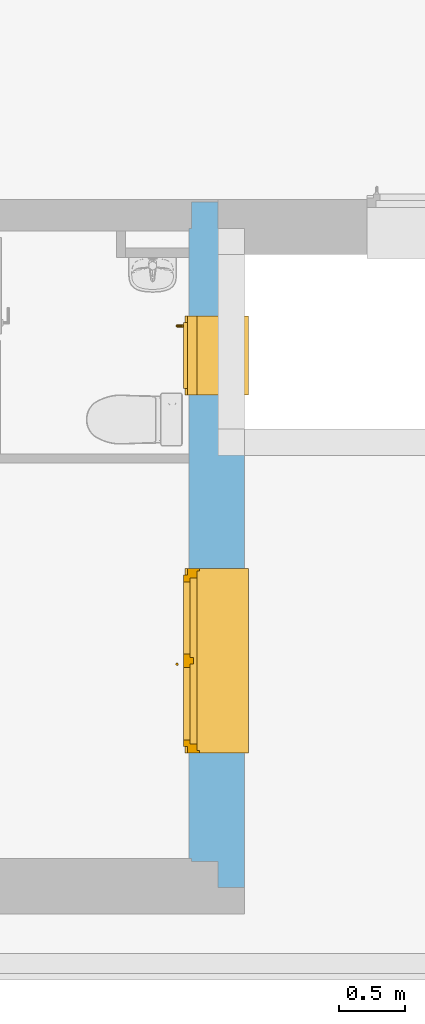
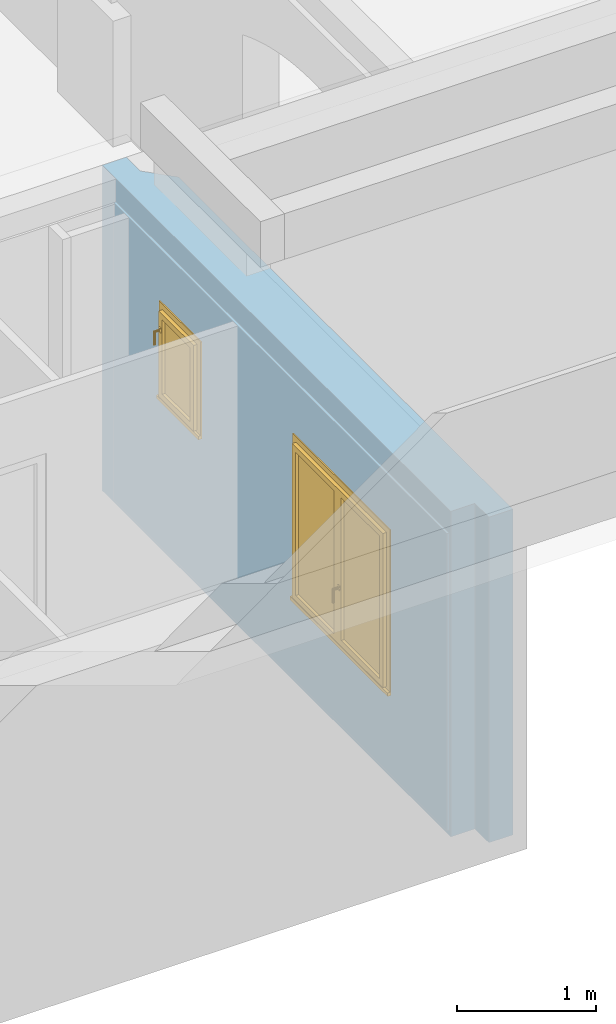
# One storey, part 7 of 16: 2 windows, 2 openings, plus 1 element that does not belong to this part.
"""IFC4 building model written with IfcOpenShell, lengths in metres."""

from ifc_helpers import new_model, entity, si_unit, converted_unit, frame, origin, origin_with_axes, place, context, subcontext, project, spatial, polyline, outline, extrude, clip, bounded_halfspace, closed_shell, open_shell, surface_model, source, transform, mapped, material, layer, layer_set, layer_usage, type_object, element, fill, save


model = new_model("IFC4")

# Units and contexts
model_context = context("Model", 3, precision=1e-05, world=origin())
body_context = subcontext(model_context, "Body", "Model", "MODEL_VIEW")
ifc_project = project(units=[si_unit("LENGTHUNIT", "METRE"), si_unit("AREAUNIT", "SQUARE_METRE"), si_unit("VOLUMEUNIT", "CUBIC_METRE"), si_unit("MASSUNIT", "GRAM", prefix="KILO"), converted_unit("PLANEANGLEUNIT", "DEGREE", entity("IfcPlaneAngleMeasure", 0.0174532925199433), si_unit("PLANEANGLEUNIT", "RADIAN"), dimensions=[0, 0, 0, 0, 0, 0, 0])], contexts=[model_context])

# Building, storey
building_placement = place(None, origin())
building = spatial("IfcBuilding", under=ifc_project, at=building_placement, Name="Projet de Construction", CompositionType="ELEMENT")
storey_placement = place(building_placement, frame((0.0, 0.0, -0.05)))
storey = spatial("IfcBuildingStorey", under=building, at=storey_placement, Name="RDC", CompositionType="ELEMENT", Elevation=-0.05)

# Wall, openings, windows
ifc_material_1 = material()
ifc_layer_1 = layer(ifc_material_1, 0.200000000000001)
ifc_material_2 = material()
ifc_layer_2 = layer(ifc_material_2, 0.2)
ifc_material_3 = material()
ifc_layer_3 = layer(ifc_material_3, 0.02)
ifc_layer_set = layer_set([ifc_layer_1, ifc_layer_2, ifc_layer_3])
ifc_layer_usage = layer_usage(ifc_layer_set, "AXIS2", "POSITIVE", 0.0)
wall_placement = place(storey_placement, frame((-3.9459375, -3.50020833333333, 0.0), z_axis=(0.0, 0.0, 1.0), x_axis=(3.7895612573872e-16, 1.0, 0.0)))
wall = element("IfcWall", 1, at=wall_placement, inside=storey, material=ifc_layer_usage, context=body_context, shape_type="Clipping", body=[
    clip(clip(extrude(outline(polyline([(1.59161572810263e-16, -0.420000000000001), (4.8, -0.420000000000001), (5.0, -0.219999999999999), (5.2, -0.219999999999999), (5.2, -0.0199999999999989), (5.0, -0.019999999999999), (5.0, 9.85285926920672e-16), (0.22, 8.33703476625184e-17), (0.22, -0.0199999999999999), (0.2, -0.0199999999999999), (0.2, -0.22), (8.33703476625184e-17, -0.22), (1.59161572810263e-16, -0.420000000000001)])), frame((-1.59161572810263e-16, 0.420000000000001, 0.0), z_axis=(0.0, 0.0, 1.0), x_axis=(1.0, 0.0, 0.0)), (0.0, 0.0, 1.0), 2.85), bounded_halfspace(frame((2.61, 0.410000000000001, 0.05), z_axis=(0.0, 0.0, 1.0), x_axis=(3.7895612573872e-16, -1.0, 0.0)), True, origin_with_axes(), polyline([(0.219999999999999, 0.420000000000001), (0.219999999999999, 0.400000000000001), (5.0, 0.400000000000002), (5.0, 0.420000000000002), (0.219999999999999, 0.420000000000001)]))), bounded_halfspace(frame((2.61, 0.410000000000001, 2.65), z_axis=(0.0, 0.0, -1.0), x_axis=(1.0, 1.88685267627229e-16, 0.0)), True, origin_with_axes(), polyline([(0.219999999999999, 0.400000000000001), (5.0, 0.400000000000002), (5.0, 0.420000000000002), (0.219999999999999, 0.420000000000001), (0.219999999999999, 0.400000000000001)]))),
])
opening_1_placement = place(wall_placement, frame((2.42, 0.200000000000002, 0.75), z_axis=(0.0, -1.0, 0.0), x_axis=(0.0, 0.0, 1.0)))
opening_1 = element("IfcOpeningStandardCase", 2, at=opening_1_placement, cuts=wall, Name="Baie de fenêtre", PredefinedType="OPENING", context=body_context, shape_type="SweptSolid", body=[
    extrude(outline(polyline([(0.0, 1.4), (1.45, 1.4), (1.45, 0.0), (0.0, 0.0), (0.0, 1.4)])), origin_with_axes(), (0.0, 0.0, 1.0), 0.200000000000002),
    extrude(outline(polyline([(0.0, 1.4), (1.45, 1.4), (1.45, 0.0), (0.0, 0.0), (0.0, 1.4)])), frame((0.0, 0.0, -0.2), z_axis=(0.0, 0.0, 1.0), x_axis=(1.0, 0.0, 0.0)), (0.0, 0.0, 1.0), 0.2),
    extrude(outline(polyline([(0.0, 1.4), (1.45, 1.4), (1.45, 0.0), (0.0, 0.0), (0.0, 1.4)])), frame((0.0, 0.0, -0.22), z_axis=(0.0, 0.0, 1.0), x_axis=(1.0, 0.0, 0.0)), (0.0, 0.0, 1.0), 0.02),
])
opening_2_placement = place(wall_placement, frame((4.335, 0.200000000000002, 1.35), z_axis=(0.0, -1.0, 0.0), x_axis=(0.0, 0.0, 1.0)))
opening_2 = element("IfcOpeningStandardCase", 3, at=opening_2_placement, cuts=wall, Name="Baie de fenêtre", PredefinedType="OPENING", context=body_context, shape_type="SweptSolid", body=[
    extrude(outline(polyline([(0.0, 0.6), (0.85, 0.6), (0.85, 0.0), (0.0, 0.0), (0.0, 0.6)])), origin_with_axes(), (0.0, 0.0, 1.0), 0.200000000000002),
    extrude(outline(polyline([(0.0, 0.6), (0.85, 0.6), (0.85, 0.0), (0.0, 0.0), (0.0, 0.6)])), frame((0.0, 0.0, -0.2), z_axis=(0.0, 0.0, 1.0), x_axis=(1.0, 0.0, 0.0)), (0.0, 0.0, 1.0), 0.2),
    extrude(outline(polyline([(0.0, 0.6), (0.85, 0.6), (0.85, 0.0), (0.0, 0.0), (0.0, 0.6)])), frame((0.0, 0.0, -0.22), z_axis=(0.0, 0.0, 1.0), x_axis=(1.0, 0.0, 0.0)), (0.0, 0.0, 1.0), 0.02),
])
ifc_material_4 = material()
window_type_1 = type_object("IfcWindowType", Name="3 vantaux blanc, monté", ParameterTakesPrecedence=False, PartitioningType="DOUBLE_PANEL_VERTICAL", PredefinedType="WINDOW")
shared_shape_1 = source(origin_with_axes(), body_context, "Body", "SurfaceModel", [
    surface_model("IfcShellBasedSurfaceModel", [(0.0, -0.37, 0.0), (0.0, 0.0, 0.0), (0.0, 0.0, 0.03), (0.0, -0.39, 0.02), (0.0, -0.39, -0.03), (0.0, -0.37, -0.03), (1.4, 0.0, 2.27373675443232e-16), (1.4, -0.37, 2.27373675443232e-16), (1.4, -0.37, -0.0299999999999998), (1.4, -0.39, -0.0299999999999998), (1.4, -0.39, 0.0200000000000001), (1.4, 0.0, 0.0300000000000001)], [closed_shell([[[0, 1, 2, 3, 4, 5]], [[6, 7, 8, 9, 10, 11]], [[1, 0, 7, 6]], [[2, 1, 6, 11]], [[3, 2, 11, 10]], [[4, 3, 10, 9]], [[5, 4, 9, 8]], [[0, 5, 8, 7]]], orient=[[False], [False], [False], [False], [False], [False], [False], [False]])]),
    surface_model("IfcShellBasedSurfaceModel", [(0.0, 0.09, 0.0), (0.0, 0.09, 0.03), (0.0, 0.04, 0.03), (0.0, 0.04, 0.0), (1.4, 0.04, 2.27373675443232e-16), (1.4, 0.04, 0.0300000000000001), (1.4, 0.09, 0.0300000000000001), (1.4, 0.09, 2.27373675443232e-16)], [closed_shell([[[0, 1, 2, 3]], [[4, 5, 6, 7]], [[3, 4, 7, 0]], [[2, 5, 4, 3]], [[1, 6, 5, 2]], [[0, 7, 6, 1]]], orient=[[False], [False], [False], [False], [False], [False]])]),
    surface_model("IfcShellBasedSurfaceModel", [(0.0, 0.0, 1.45), (0.0, 0.0, 1.25), (1.4, 0.0, 1.25), (1.4, 0.0, 1.45), (0.0, -0.2, 1.25), (0.0, -0.2, 1.45), (1.4, -0.2, 1.45), (1.4, -0.2, 1.25)], [closed_shell([[[0, 1, 2, 3]], [[4, 5, 6, 7]], [[1, 0, 5, 4]], [[2, 1, 4, 7]], [[3, 2, 7, 6]], [[0, 3, 6, 5]]], orient=[[False], [False], [False], [False], [False], [False]])]),
    surface_model("IfcShellBasedSurfaceModel", [(0.0, 0.0, 1.25), (0.0, 0.0, 0.0), (0.02, 0.0, 0.0), (0.02, 0.0, 1.25), (0.0, -0.02, 0.0), (0.0, -0.02, 1.25), (0.02, -0.02, 1.25), (0.02, -0.02, 0.0)], [closed_shell([[[0, 1, 2, 3]], [[4, 5, 6, 7]], [[1, 0, 5, 4]], [[2, 1, 4, 7]], [[3, 2, 7, 6]], [[0, 3, 6, 5]]], orient=[[False], [False], [False], [False], [False], [False]])]),
    surface_model("IfcShellBasedSurfaceModel", [(1.38, 0.0, 1.25), (1.38, 0.0, 0.0), (1.4, 0.0, 0.0), (1.4, 0.0, 1.25), (1.38, -0.02, 0.0), (1.38, -0.02, 1.25), (1.4, -0.02, 1.25), (1.4, -0.02, 0.0)], [closed_shell([[[0, 1, 2, 3]], [[4, 5, 6, 7]], [[1, 0, 5, 4]], [[2, 1, 4, 7]], [[3, 2, 7, 6]], [[0, 3, 6, 5]]], orient=[[False], [False], [False], [False], [False], [False]])]),
    surface_model("IfcShellBasedSurfaceModel", [(0.01, -0.005, 1.245), (0.01, -0.005, 1.195), (1.39, -0.005, 1.195), (1.39, -0.005, 1.245), (0.01, -0.015, 1.195), (0.01, -0.015, 1.245), (1.39, -0.015, 1.245), (1.39, -0.015, 1.195)], [closed_shell([[[0, 1, 2, 3]], [[4, 5, 6, 7]], [[1, 0, 5, 4]], [[2, 1, 4, 7]], [[3, 2, 7, 6]], [[0, 3, 6, 5]]], orient=[[False], [False], [False], [False], [False], [False]])]),
    surface_model("IfcShellBasedSurfaceModel", [(0.01, -0.005, 1.19), (0.01, -0.005, 1.14), (1.39, -0.005, 1.14), (1.39, -0.005, 1.19), (0.01, -0.015, 1.14), (0.01, -0.015, 1.19), (1.39, -0.015, 1.19), (1.39, -0.015, 1.14)], [closed_shell([[[0, 1, 2, 3]], [[4, 5, 6, 7]], [[1, 0, 5, 4]], [[2, 1, 4, 7]], [[3, 2, 7, 6]], [[0, 3, 6, 5]]], orient=[[False], [False], [False], [False], [False], [False]])]),
    surface_model("IfcShellBasedSurfaceModel", [(0.01, -0.005, 1.135), (0.01, -0.005, 1.085), (1.39, -0.005, 1.085), (1.39, -0.005, 1.135), (0.01, -0.015, 1.085), (0.01, -0.015, 1.135), (1.39, -0.015, 1.135), (1.39, -0.015, 1.085)], [closed_shell([[[0, 1, 2, 3]], [[4, 5, 6, 7]], [[1, 0, 5, 4]], [[2, 1, 4, 7]], [[3, 2, 7, 6]], [[0, 3, 6, 5]]], orient=[[False], [False], [False], [False], [False], [False]])]),
    surface_model("IfcShellBasedSurfaceModel", [(0.01, -0.005, 1.08), (0.01, -0.005, 1.03), (1.39, -0.005, 1.03), (1.39, -0.005, 1.08), (0.01, -0.015, 1.03), (0.01, -0.015, 1.08), (1.39, -0.015, 1.08), (1.39, -0.015, 1.03)], [closed_shell([[[0, 1, 2, 3]], [[4, 5, 6, 7]], [[1, 0, 5, 4]], [[2, 1, 4, 7]], [[3, 2, 7, 6]], [[0, 3, 6, 5]]], orient=[[False], [False], [False], [False], [False], [False]])]),
    surface_model("IfcShellBasedSurfaceModel", [(0.01, -0.005, 1.025), (0.01, -0.005, 0.975), (1.39, -0.005, 0.975), (1.39, -0.005, 1.025), (0.01, -0.015, 0.975), (0.01, -0.015, 1.025), (1.39, -0.015, 1.025), (1.39, -0.015, 0.975)], [closed_shell([[[0, 1, 2, 3]], [[4, 5, 6, 7]], [[1, 0, 5, 4]], [[2, 1, 4, 7]], [[3, 2, 7, 6]], [[0, 3, 6, 5]]], orient=[[False], [False], [False], [False], [False], [False]])]),
    surface_model("IfcShellBasedSurfaceModel", [(0.01, -0.005, 0.97), (0.01, -0.005, 0.92), (1.39, -0.005, 0.92), (1.39, -0.005, 0.97), (0.01, -0.015, 0.92), (0.01, -0.015, 0.97), (1.39, -0.015, 0.97), (1.39, -0.015, 0.92)], [closed_shell([[[0, 1, 2, 3]], [[4, 5, 6, 7]], [[1, 0, 5, 4]], [[2, 1, 4, 7]], [[3, 2, 7, 6]], [[0, 3, 6, 5]]], orient=[[False], [False], [False], [False], [False], [False]])]),
    surface_model("IfcShellBasedSurfaceModel", [(0.0, 0.07, 1.45), (0.0, 0.07, 0.0), (0.07, 0.07, 0.0), (0.07, 0.07, 1.45), (0.0, 0.0, 0.0), (0.0, 0.0, 1.45), (0.07, 0.0, 1.45), (0.07, 0.0, 0.0)], [closed_shell([[[0, 1, 2, 3]], [[4, 5, 6, 7]], [[1, 0, 5, 4]], [[2, 1, 4, 7]], [[3, 2, 7, 6]], [[0, 3, 6, 5]]], orient=[[False], [False], [False], [False], [False], [False]])]),
    surface_model("IfcShellBasedSurfaceModel", [(1.33, 0.07, 1.45), (1.33, 0.07, 0.0), (1.4, 0.07, 0.0), (1.4, 0.07, 1.45), (1.33, 0.0, 0.0), (1.33, 0.0, 1.45), (1.4, 0.0, 1.45), (1.4, 0.0, 0.0)], [closed_shell([[[0, 1, 2, 3]], [[4, 5, 6, 7]], [[1, 0, 5, 4]], [[2, 1, 4, 7]], [[3, 2, 7, 6]], [[0, 3, 6, 5]]], orient=[[False], [False], [False], [False], [False], [False]])]),
    surface_model("IfcShellBasedSurfaceModel", [(0.07, 0.07, 0.07), (0.07, 0.07, 0.0), (1.33, 0.07, 0.0), (1.33, 0.07, 0.07), (0.07, 0.0, 0.0), (0.07, 0.0, 0.07), (1.33, 0.0, 0.07), (1.33, 0.0, 0.0)], [closed_shell([[[0, 1, 2, 3]], [[4, 5, 6, 7]], [[1, 0, 5, 4]], [[2, 1, 4, 7]], [[3, 2, 7, 6]], [[0, 3, 6, 5]]], orient=[[False], [False], [False], [False], [False], [False]])]),
    surface_model("IfcShellBasedSurfaceModel", [(0.07, 0.07, 1.45), (0.07, 0.07, 1.38), (1.33, 0.07, 1.38), (1.33, 0.07, 1.45), (0.07, 0.0, 1.38), (0.07, 0.0, 1.45), (1.33, 0.0, 1.45), (1.33, 0.0, 1.38)], [closed_shell([[[0, 1, 2, 3]], [[4, 5, 6, 7]], [[1, 0, 5, 4]], [[2, 1, 4, 7]], [[3, 2, 7, 6]], [[0, 3, 6, 5]]], orient=[[False], [False], [False], [False], [False], [False]])]),
    surface_model("IfcShellBasedSurfaceModel", [(0.05, 0.1, 1.4), (0.05, 0.1, 0.05), (0.1, 0.1, 0.05), (0.1, 0.1, 1.4), (0.05, 0.05, 0.05), (0.05, 0.05, 1.4), (0.1, 0.05, 1.4), (0.1, 0.05, 0.05)], [closed_shell([[[0, 1, 2, 3]], [[4, 5, 6, 7]], [[1, 0, 5, 4]], [[2, 1, 4, 7]], [[3, 2, 7, 6]], [[0, 3, 6, 5]]], orient=[[False], [False], [False], [False], [False], [False]])]),
    surface_model("IfcShellBasedSurfaceModel", [(0.6495, 0.1, 1.4), (0.6495, 0.1, 0.05), (0.6995, 0.1, 0.05), (0.6995, 0.1, 1.4), (0.6495, 0.05, 0.05), (0.6495, 0.05, 1.4), (0.6995, 0.05, 1.4), (0.6995, 0.05, 0.05)], [closed_shell([[[0, 1, 2, 3]], [[4, 5, 6, 7]], [[1, 0, 5, 4]], [[2, 1, 4, 7]], [[3, 2, 7, 6]], [[0, 3, 6, 5]]], orient=[[False], [False], [False], [False], [False], [False]])]),
    surface_model("IfcShellBasedSurfaceModel", [(0.1, 0.1, 0.1), (0.1, 0.1, 0.05), (0.6495, 0.1, 0.05), (0.6495, 0.1, 0.1), (0.1, 0.05, 0.05), (0.1, 0.05, 0.1), (0.6495, 0.05, 0.1), (0.6495, 0.05, 0.05)], [closed_shell([[[0, 1, 2, 3]], [[4, 5, 6, 7]], [[1, 0, 5, 4]], [[2, 1, 4, 7]], [[3, 2, 7, 6]], [[0, 3, 6, 5]]], orient=[[False], [False], [False], [False], [False], [False]])]),
    surface_model("IfcShellBasedSurfaceModel", [(0.1, 0.1, 1.4), (0.1, 0.1, 1.35), (0.6495, 0.1, 1.35), (0.6495, 0.1, 1.4), (0.1, 0.05, 1.35), (0.1, 0.05, 1.4), (0.6495, 0.05, 1.4), (0.6495, 0.05, 1.35)], [closed_shell([[[0, 1, 2, 3]], [[4, 5, 6, 7]], [[1, 0, 5, 4]], [[2, 1, 4, 7]], [[3, 2, 7, 6]], [[0, 3, 6, 5]]], orient=[[False], [False], [False], [False], [False], [False]])]),
    surface_model("IfcShellBasedSurfaceModel", [(0.6745, 0.05, 1.38), (0.6745, 0.05, 0.07), (0.7245, 0.05, 0.07), (0.7245, 0.05, 1.38), (0.6745, 0.025, 0.07), (0.6745, 0.025, 1.38), (0.7245, 0.025, 1.38), (0.7245, 0.025, 0.07)], [closed_shell([[[0, 1, 2, 3]], [[4, 5, 6, 7]], [[1, 0, 5, 4]], [[2, 1, 4, 7]], [[3, 2, 7, 6]], [[0, 3, 6, 5]]], orient=[[False], [False], [False], [False], [False], [False]])]),
    surface_model("IfcShellBasedSurfaceModel", [(0.662, 0.1, 0.57), (0.687, 0.1, 0.57), (0.687, 0.1, 0.53), (0.662, 0.1, 0.53), (0.662, 0.11, 0.53), (0.687, 0.11, 0.53), (0.687, 0.11, 0.57), (0.662, 0.11, 0.57)], [closed_shell([[[0, 1, 2, 3]], [[4, 5, 6, 7]], [[3, 4, 7, 0]], [[2, 5, 4, 3]], [[1, 6, 5, 2]], [[0, 7, 6, 1]]], orient=[[False], [False], [False], [False], [False], [False]])]),
    surface_model("IfcShellBasedSurfaceModel", [(0.6845, 0.11, 0.55), (0.683160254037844, 0.11, 0.545), (0.6795, 0.11, 0.541339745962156), (0.6745, 0.11, 0.54), (0.6695, 0.11, 0.541339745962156), (0.665839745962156, 0.11, 0.545), (0.6645, 0.11, 0.55), (0.665839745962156, 0.11, 0.555), (0.6695, 0.11, 0.558660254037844), (0.6745, 0.11, 0.56), (0.6795, 0.11, 0.558660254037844), (0.683160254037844, 0.11, 0.555), (0.683160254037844, 0.155, 0.555), (0.6845, 0.15, 0.55), (0.6795, 0.158660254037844, 0.558660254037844), (0.6745, 0.16, 0.56), (0.6695, 0.158660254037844, 0.558660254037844), (0.665839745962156, 0.155, 0.555), (0.6645, 0.15, 0.55), (0.665839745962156, 0.145, 0.545), (0.6695, 0.141339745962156, 0.541339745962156), (0.6745, 0.14, 0.54), (0.6795, 0.141339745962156, 0.541339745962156), (0.683160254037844, 0.145, 0.545), (0.6845, 0.15, 0.435), (0.683160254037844, 0.155, 0.435), (0.6795, 0.158660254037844, 0.435), (0.6745, 0.16, 0.435), (0.6695, 0.158660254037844, 0.435), (0.665839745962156, 0.155, 0.435), (0.6645, 0.15, 0.435), (0.665839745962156, 0.145, 0.435), (0.6695, 0.141339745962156, 0.435), (0.6745, 0.14, 0.435), (0.6795, 0.141339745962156, 0.435), (0.683160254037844, 0.145, 0.435)], [closed_shell([[[0, 1, 2, 3, 4, 5, 6, 7, 8, 9, 10, 11]], [[0, 11, 12, 13]], [[11, 10, 14, 12]], [[10, 9, 15, 14]], [[9, 8, 16, 15]], [[8, 7, 17, 16]], [[7, 6, 18, 17]], [[6, 5, 19, 18]], [[5, 4, 20, 19]], [[4, 3, 21, 20]], [[3, 2, 22, 21]], [[2, 1, 23, 22]], [[1, 0, 13, 23]], [[24, 25, 26, 27, 28, 29, 30, 31, 32, 33, 34, 35]], [[13, 12, 25, 24]], [[12, 14, 26, 25]], [[14, 15, 27, 26]], [[15, 16, 28, 27]], [[16, 17, 29, 28]], [[17, 18, 30, 29]], [[18, 19, 31, 30]], [[19, 20, 32, 31]], [[20, 21, 33, 32]], [[21, 22, 34, 33]], [[22, 23, 35, 34]], [[23, 13, 24, 35]]], orient=[[False], [False], [False], [False], [False], [False], [False], [False], [False], [False], [False], [False], [False], [False], [False], [False], [False], [False], [False], [False], [False], [False], [False], [False], [False], [False]])]),
    surface_model("IfcShellBasedSurfaceModel", [(0.7005, 0.1, 1.4), (0.7005, 0.1, 0.05), (0.7505, 0.1, 0.05), (0.7505, 0.1, 1.4), (0.7005, 0.05, 0.05), (0.7005, 0.05, 1.4), (0.7505, 0.05, 1.4), (0.7505, 0.05, 0.05)], [closed_shell([[[0, 1, 2, 3]], [[4, 5, 6, 7]], [[1, 0, 5, 4]], [[2, 1, 4, 7]], [[3, 2, 7, 6]], [[0, 3, 6, 5]]], orient=[[False], [False], [False], [False], [False], [False]])]),
    surface_model("IfcShellBasedSurfaceModel", [(1.3, 0.1, 1.4), (1.3, 0.1, 0.05), (1.35, 0.1, 0.05), (1.35, 0.1, 1.4), (1.3, 0.05, 0.05), (1.3, 0.05, 1.4), (1.35, 0.05, 1.4), (1.35, 0.05, 0.05)], [closed_shell([[[0, 1, 2, 3]], [[4, 5, 6, 7]], [[1, 0, 5, 4]], [[2, 1, 4, 7]], [[3, 2, 7, 6]], [[0, 3, 6, 5]]], orient=[[False], [False], [False], [False], [False], [False]])]),
    surface_model("IfcShellBasedSurfaceModel", [(0.7505, 0.1, 0.1), (0.7505, 0.1, 0.05), (1.3, 0.1, 0.05), (1.3, 0.1, 0.1), (0.7505, 0.05, 0.05), (0.7505, 0.05, 0.1), (1.3, 0.05, 0.1), (1.3, 0.05, 0.05)], [closed_shell([[[0, 1, 2, 3]], [[4, 5, 6, 7]], [[1, 0, 5, 4]], [[2, 1, 4, 7]], [[3, 2, 7, 6]], [[0, 3, 6, 5]]], orient=[[False], [False], [False], [False], [False], [False]])]),
    surface_model("IfcShellBasedSurfaceModel", [(0.7505, 0.1, 1.4), (0.7505, 0.1, 1.35), (1.3, 0.1, 1.35), (1.3, 0.1, 1.4), (0.7505, 0.05, 1.35), (0.7505, 0.05, 1.4), (1.3, 0.05, 1.4), (1.3, 0.05, 1.35)], [closed_shell([[[0, 1, 2, 3]], [[4, 5, 6, 7]], [[1, 0, 5, 4]], [[2, 1, 4, 7]], [[3, 2, 7, 6]], [[0, 3, 6, 5]]], orient=[[False], [False], [False], [False], [False], [False]])]),
    surface_model("IfcShellBasedSurfaceModel", [(0.1, 0.075, 0.1), (0.6495, 0.075, 0.1), (0.6495, 0.075, 1.35), (0.1, 0.075, 1.35)], [open_shell([[[0, 1, 2, 3]]], orient=[[False]])]),
    surface_model("IfcShellBasedSurfaceModel", [(0.7505, 0.075, 0.1), (1.3, 0.075, 0.1), (1.3, 0.075, 1.35), (0.7505, 0.075, 1.35)], [open_shell([[[0, 1, 2, 3]]], orient=[[False]])]),
])
window_1_placement = place(opening_1_placement, frame((0.0, 1.4, -0.159999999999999), z_axis=(1.0, 0.0, 0.0), x_axis=(0.0, -1.0, -3.7895612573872e-16)))
window_1 = element("IfcWindow", 4, at=window_1_placement, inside=storey, type_object=window_type_1, material=ifc_material_4, Name="3 vantaux blanc, monté", OverallHeight=1.45, OverallWidth=1.4, context=body_context, shape_type="MappedRepresentation", body=[
    mapped(shared_shape_1, transform((0.0, 0.0, 0.0), x_axis=(1.0, 0.0, 0.0), y_axis=(0.0, 1.0, 0.0), z_axis=(0.0, 0.0, 1.0), scale=1.0)),
])
fill(opening_1, window_1)
ifc_material_5 = material()
window_type_2 = type_object("IfcWindowType", Name="1 vantail blanc", ParameterTakesPrecedence=False, PartitioningType="SINGLE_PANEL", PredefinedType="WINDOW")
shared_shape_2 = source(origin_with_axes(), body_context, "Body", "SurfaceModel", [
    surface_model("IfcShellBasedSurfaceModel", [(0.6, -0.37, 0.0), (0.6, -0.37, -0.03), (0.6, -0.39, -0.03), (0.6, -0.39, 0.02), (0.6, 0.0, 0.03), (0.6, 0.0, 0.0), (1.13686837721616e-16, 0.0, 0.0), (1.13686837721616e-16, 0.0, 0.03), (1.13686837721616e-16, -0.39, 0.02), (1.13686837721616e-16, -0.39, -0.03), (1.13686837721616e-16, -0.37, -0.03), (1.13686837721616e-16, -0.37, 0.0)], [closed_shell([[[0, 1, 2, 3, 4, 5]], [[6, 7, 8, 9, 10, 11]], [[5, 6, 11, 0]], [[4, 7, 6, 5]], [[3, 8, 7, 4]], [[2, 9, 8, 3]], [[1, 10, 9, 2]], [[0, 11, 10, 1]]], orient=[[False], [False], [False], [False], [False], [False], [False], [False]])]),
    surface_model("IfcShellBasedSurfaceModel", [(0.6, 0.09, 0.0), (0.6, 0.04, 0.0), (0.6, 0.04, 0.03), (0.6, 0.09, 0.03), (1.13686837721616e-16, 0.04, 0.0), (1.13686837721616e-16, 0.09, 0.0), (1.13686837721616e-16, 0.09, 0.03), (1.13686837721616e-16, 0.04, 0.03)], [closed_shell([[[0, 1, 2, 3]], [[4, 5, 6, 7]], [[1, 0, 5, 4]], [[2, 1, 4, 7]], [[3, 2, 7, 6]], [[0, 3, 6, 5]]], orient=[[False], [False], [False], [False], [False], [False]])]),
    surface_model("IfcShellBasedSurfaceModel", [(0.6, 0.07, 0.85), (0.53, 0.07, 0.85), (0.53, 0.07, 0.0), (0.6, 0.07, 0.0), (0.6, 0.0, 0.0), (0.53, 0.0, 0.0), (0.53, 0.0, 0.85), (0.6, 0.0, 0.85)], [closed_shell([[[0, 1, 2, 3]], [[4, 5, 6, 7]], [[3, 4, 7, 0]], [[2, 5, 4, 3]], [[1, 6, 5, 2]], [[0, 7, 6, 1]]], orient=[[False], [False], [False], [False], [False], [False]])]),
    surface_model("IfcShellBasedSurfaceModel", [(0.07, 0.07, 0.85), (0.0, 0.07, 0.85), (0.0, 0.07, 0.0), (0.07, 0.07, 0.0), (0.07, 0.0, 0.0), (0.0, 0.0, 0.0), (0.0, 0.0, 0.85), (0.07, 0.0, 0.85)], [closed_shell([[[0, 1, 2, 3]], [[4, 5, 6, 7]], [[3, 4, 7, 0]], [[2, 5, 4, 3]], [[1, 6, 5, 2]], [[0, 7, 6, 1]]], orient=[[False], [False], [False], [False], [False], [False]])]),
    surface_model("IfcShellBasedSurfaceModel", [(0.53, 0.07, 0.07), (0.07, 0.07, 0.07), (0.07, 0.07, 0.0), (0.53, 0.07, 0.0), (0.53, 0.0, 0.0), (0.07, 0.0, 0.0), (0.07, 0.0, 0.07), (0.53, 0.0, 0.07)], [closed_shell([[[0, 1, 2, 3]], [[4, 5, 6, 7]], [[3, 4, 7, 0]], [[2, 5, 4, 3]], [[1, 6, 5, 2]], [[0, 7, 6, 1]]], orient=[[False], [False], [False], [False], [False], [False]])]),
    surface_model("IfcShellBasedSurfaceModel", [(0.53, 0.07, 0.85), (0.07, 0.07, 0.85), (0.07, 0.07, 0.78), (0.53, 0.07, 0.78), (0.53, 0.0, 0.78), (0.07, 0.0, 0.78), (0.07, 0.0, 0.85), (0.53, 0.0, 0.85)], [closed_shell([[[0, 1, 2, 3]], [[4, 5, 6, 7]], [[3, 4, 7, 0]], [[2, 5, 4, 3]], [[1, 6, 5, 2]], [[0, 7, 6, 1]]], orient=[[False], [False], [False], [False], [False], [False]])]),
    surface_model("IfcShellBasedSurfaceModel", [(0.55, 0.1, 0.8), (0.5, 0.1, 0.8), (0.5, 0.1, 0.05), (0.55, 0.1, 0.05), (0.55, 0.05, 0.05), (0.5, 0.05, 0.05), (0.5, 0.05, 0.8), (0.55, 0.05, 0.8)], [closed_shell([[[0, 1, 2, 3]], [[4, 5, 6, 7]], [[3, 4, 7, 0]], [[2, 5, 4, 3]], [[1, 6, 5, 2]], [[0, 7, 6, 1]]], orient=[[False], [False], [False], [False], [False], [False]])]),
    surface_model("IfcShellBasedSurfaceModel", [(0.1, 0.1, 0.8), (0.05, 0.1, 0.8), (0.05, 0.1, 0.05), (0.1, 0.1, 0.05), (0.1, 0.05, 0.05), (0.05, 0.05, 0.05), (0.05, 0.05, 0.8), (0.1, 0.05, 0.8)], [closed_shell([[[0, 1, 2, 3]], [[4, 5, 6, 7]], [[3, 4, 7, 0]], [[2, 5, 4, 3]], [[1, 6, 5, 2]], [[0, 7, 6, 1]]], orient=[[False], [False], [False], [False], [False], [False]])]),
    surface_model("IfcShellBasedSurfaceModel", [(0.5, 0.1, 0.1), (0.1, 0.1, 0.1), (0.1, 0.1, 0.05), (0.5, 0.1, 0.05), (0.5, 0.05, 0.05), (0.1, 0.05, 0.05), (0.1, 0.05, 0.1), (0.5, 0.05, 0.1)], [closed_shell([[[0, 1, 2, 3]], [[4, 5, 6, 7]], [[3, 4, 7, 0]], [[2, 5, 4, 3]], [[1, 6, 5, 2]], [[0, 7, 6, 1]]], orient=[[False], [False], [False], [False], [False], [False]])]),
    surface_model("IfcShellBasedSurfaceModel", [(0.5, 0.1, 0.8), (0.1, 0.1, 0.8), (0.1, 0.1, 0.75), (0.5, 0.1, 0.75), (0.5, 0.05, 0.75), (0.1, 0.05, 0.75), (0.1, 0.05, 0.8), (0.5, 0.05, 0.8)], [closed_shell([[[0, 1, 2, 3]], [[4, 5, 6, 7]], [[3, 4, 7, 0]], [[2, 5, 4, 3]], [[1, 6, 5, 2]], [[0, 7, 6, 1]]], orient=[[False], [False], [False], [False], [False], [False]])]),
    surface_model("IfcShellBasedSurfaceModel", [(0.5375, 0.1, 0.67), (0.5375, 0.1, 0.63), (0.5125, 0.1, 0.63), (0.5125, 0.1, 0.67), (0.5375, 0.11, 0.63), (0.5375, 0.11, 0.67), (0.5125, 0.11, 0.67), (0.5125, 0.11, 0.63)], [closed_shell([[[0, 1, 2, 3]], [[4, 5, 6, 7]], [[1, 0, 5, 4]], [[2, 1, 4, 7]], [[3, 2, 7, 6]], [[0, 3, 6, 5]]], orient=[[False], [False], [False], [False], [False], [False]])]),
    surface_model("IfcShellBasedSurfaceModel", [(0.515, 0.11, 0.65), (0.516339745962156, 0.11, 0.655), (0.52, 0.11, 0.658660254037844), (0.525, 0.11, 0.66), (0.53, 0.11, 0.658660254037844), (0.533660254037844, 0.11, 0.655), (0.535, 0.11, 0.65), (0.533660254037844, 0.11, 0.645), (0.53, 0.11, 0.641339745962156), (0.525, 0.11, 0.64), (0.52, 0.11, 0.641339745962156), (0.516339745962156, 0.11, 0.645), (0.515, 0.15, 0.65), (0.516339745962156, 0.155, 0.655), (0.52, 0.158660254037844, 0.658660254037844), (0.525, 0.16, 0.66), (0.53, 0.158660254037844, 0.658660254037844), (0.533660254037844, 0.155, 0.655), (0.535, 0.15, 0.65), (0.533660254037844, 0.145, 0.645), (0.53, 0.141339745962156, 0.641339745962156), (0.525, 0.14, 0.64), (0.52, 0.141339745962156, 0.641339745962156), (0.516339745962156, 0.145, 0.645), (0.515, 0.15, 0.535), (0.516339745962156, 0.145, 0.535), (0.52, 0.141339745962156, 0.535), (0.525, 0.14, 0.535), (0.53, 0.141339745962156, 0.535), (0.533660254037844, 0.145, 0.535), (0.535, 0.15, 0.535), (0.533660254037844, 0.155, 0.535), (0.53, 0.158660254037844, 0.535), (0.525, 0.16, 0.535), (0.52, 0.158660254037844, 0.535), (0.516339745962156, 0.155, 0.535)], [closed_shell([[[0, 1, 2, 3, 4, 5, 6, 7, 8, 9, 10, 11]], [[0, 12, 13, 1]], [[1, 13, 14, 2]], [[2, 14, 15, 3]], [[3, 15, 16, 4]], [[4, 16, 17, 5]], [[5, 17, 18, 6]], [[6, 18, 19, 7]], [[7, 19, 20, 8]], [[8, 20, 21, 9]], [[9, 21, 22, 10]], [[10, 22, 23, 11]], [[11, 23, 12, 0]], [[24, 25, 26, 27, 28, 29, 30, 31, 32, 33, 34, 35]], [[12, 24, 35, 13]], [[13, 35, 34, 14]], [[14, 34, 33, 15]], [[15, 33, 32, 16]], [[16, 32, 31, 17]], [[17, 31, 30, 18]], [[18, 30, 29, 19]], [[19, 29, 28, 20]], [[20, 28, 27, 21]], [[21, 27, 26, 22]], [[22, 26, 25, 23]], [[23, 25, 24, 12]]], orient=[[False], [False], [False], [False], [False], [False], [False], [False], [False], [False], [False], [False], [False], [False], [False], [False], [False], [False], [False], [False], [False], [False], [False], [False], [False], [False]])]),
    surface_model("IfcShellBasedSurfaceModel", [(0.5, 0.075, 0.1), (0.5, 0.075, 0.75), (0.1, 0.075, 0.75), (0.1, 0.075, 0.1)], [open_shell([[[0, 1, 2, 3]]], orient=[[False]])]),
])
window_2_placement = place(opening_2_placement, frame((0.0, 0.6, -0.16), z_axis=(1.0, 0.0, 0.0), x_axis=(0.0, -1.0, -3.7895612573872e-16)))
window_2 = element("IfcWindow", 5, at=window_2_placement, inside=storey, type_object=window_type_2, material=ifc_material_5, Name="1 vantail blanc", OverallHeight=0.85, OverallWidth=0.6, context=body_context, shape_type="MappedRepresentation", body=[
    mapped(shared_shape_2, transform((0.0, 0.0, 0.0), x_axis=(1.0, 0.0, 0.0), y_axis=(0.0, 1.0, 0.0), z_axis=(0.0, 0.0, 1.0), scale=1.0)),
])
fill(opening_2, window_2)

save(model, "model.ifc")
